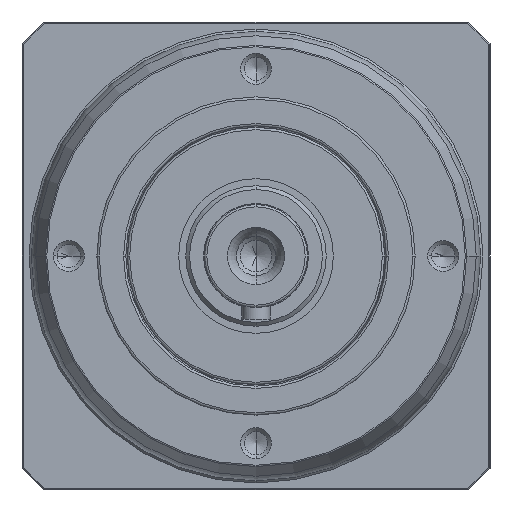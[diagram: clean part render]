
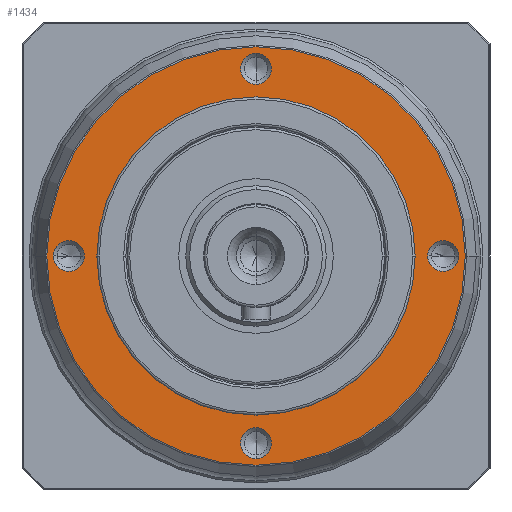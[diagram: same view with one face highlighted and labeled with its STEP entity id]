
A CAD part, left-side view. The second image highlights one B-rep face of the part: STEP entity #1434.
In plain terms, the highlighted planar face has unit normal (-1, 0, 0).
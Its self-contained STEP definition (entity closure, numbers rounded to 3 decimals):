
#252=CARTESIAN_POINT('',(6.,40.,0.));
#253=DIRECTION('',(1.,0.,0.));
#254=DIRECTION('',(0.,-1.,0.));
#255=AXIS2_PLACEMENT_3D('',#252,#253,#254);
#257=CARTESIAN_POINT('',(6.,40.,0.));
#258=DIRECTION('',(1.,0.,0.));
#259=DIRECTION('',(0.,1.,0.));
#260=AXIS2_PLACEMENT_3D('',#257,#258,#259);
#262=CARTESIAN_POINT('',(6.,0.,-40.));
#263=DIRECTION('',(1.,0.,0.));
#264=DIRECTION('',(0.,0.,-1.));
#265=AXIS2_PLACEMENT_3D('',#262,#263,#264);
#267=CARTESIAN_POINT('',(6.,0.,-40.));
#268=DIRECTION('',(1.,0.,0.));
#269=DIRECTION('',(0.,0.,1.));
#270=AXIS2_PLACEMENT_3D('',#267,#268,#269);
#272=CARTESIAN_POINT('',(6.,-40.,0.));
#273=DIRECTION('',(1.,0.,0.));
#274=DIRECTION('',(0.,-1.,0.));
#275=AXIS2_PLACEMENT_3D('',#272,#273,#274);
#277=CARTESIAN_POINT('',(6.,-40.,0.));
#278=DIRECTION('',(1.,0.,0.));
#279=DIRECTION('',(0.,1.,0.));
#280=AXIS2_PLACEMENT_3D('',#277,#278,#279);
#282=CARTESIAN_POINT('',(6.,0.,40.));
#283=DIRECTION('',(1.,0.,0.));
#284=DIRECTION('',(0.,0.,1.));
#285=AXIS2_PLACEMENT_3D('',#282,#283,#284);
#287=CARTESIAN_POINT('',(6.,0.,40.));
#288=DIRECTION('',(1.,0.,0.));
#289=DIRECTION('',(0.,0.,-1.));
#290=AXIS2_PLACEMENT_3D('',#287,#288,#289);
#292=CARTESIAN_POINT('',(6.,0.,0.));
#293=DIRECTION('',(1.,0.,0.));
#294=DIRECTION('',(0.,1.,0.));
#295=AXIS2_PLACEMENT_3D('',#292,#293,#294);
#297=CARTESIAN_POINT('',(6.,0.,0.));
#298=DIRECTION('',(1.,0.,0.));
#299=DIRECTION('',(0.,-1.,0.));
#300=AXIS2_PLACEMENT_3D('',#297,#298,#299);
#302=CARTESIAN_POINT('',(6.,0.,0.));
#303=DIRECTION('',(-1.,0.,0.));
#304=DIRECTION('',(0.,1.,0.));
#305=AXIS2_PLACEMENT_3D('',#302,#303,#304);
#307=CARTESIAN_POINT('',(6.,0.,0.));
#308=DIRECTION('',(-1.,0.,0.));
#309=DIRECTION('',(0.,-1.,0.));
#310=AXIS2_PLACEMENT_3D('',#307,#308,#309);
#899=CARTESIAN_POINT('',(6.,36.7,0.));
#900=CARTESIAN_POINT('',(6.,43.3,0.));
#901=VERTEX_POINT('',#899);
#902=VERTEX_POINT('',#900);
#903=CARTESIAN_POINT('',(6.,0.,-43.3));
#904=CARTESIAN_POINT('',(6.,0.,-36.7));
#905=VERTEX_POINT('',#903);
#906=VERTEX_POINT('',#904);
#907=CARTESIAN_POINT('',(6.,-43.3,0.));
#908=CARTESIAN_POINT('',(6.,-36.7,0.));
#909=VERTEX_POINT('',#907);
#910=VERTEX_POINT('',#908);
#911=CARTESIAN_POINT('',(6.,0.,43.3));
#912=CARTESIAN_POINT('',(6.,0.,36.7));
#913=VERTEX_POINT('',#911);
#914=VERTEX_POINT('',#912);
#943=CARTESIAN_POINT('',(6.,44.7,0.));
#944=CARTESIAN_POINT('',(6.,-44.7,0.));
#945=VERTEX_POINT('',#943);
#946=VERTEX_POINT('',#944);
#963=CARTESIAN_POINT('',(6.,34.,0.));
#964=CARTESIAN_POINT('',(6.,-34.,0.));
#965=VERTEX_POINT('',#963);
#966=VERTEX_POINT('',#964);
#1394=CARTESIAN_POINT('',(6.,0.,0.));
#1395=DIRECTION('',(-1.,0.,0.));
#1396=DIRECTION('',(0.,1.,0.));
#1397=AXIS2_PLACEMENT_3D('',#1394,#1395,#1396);
#1398=PLANE('',#1397);
#1400=ORIENTED_EDGE('',*,*,#1399,.T.);
#1402=ORIENTED_EDGE('',*,*,#1401,.T.);
#1403=EDGE_LOOP('',(#1400,#1402));
#1404=FACE_OUTER_BOUND('',#1403,.F.);
#1406=ORIENTED_EDGE('',*,*,#1405,.F.);
#1408=ORIENTED_EDGE('',*,*,#1407,.F.);
#1409=EDGE_LOOP('',(#1406,#1408));
#1410=FACE_BOUND('',#1409,.F.);
#1412=ORIENTED_EDGE('',*,*,#1411,.F.);
#1414=ORIENTED_EDGE('',*,*,#1413,.F.);
#1415=EDGE_LOOP('',(#1412,#1414));
#1416=FACE_BOUND('',#1415,.F.);
#1418=ORIENTED_EDGE('',*,*,#1417,.F.);
#1420=ORIENTED_EDGE('',*,*,#1419,.F.);
#1421=EDGE_LOOP('',(#1418,#1420));
#1422=FACE_BOUND('',#1421,.F.);
#1424=ORIENTED_EDGE('',*,*,#1423,.F.);
#1426=ORIENTED_EDGE('',*,*,#1425,.F.);
#1427=EDGE_LOOP('',(#1424,#1426));
#1428=FACE_BOUND('',#1427,.F.);
#1430=ORIENTED_EDGE('',*,*,#1429,.T.);
#1431=ORIENTED_EDGE('',*,*,#1384,.T.);
#1432=EDGE_LOOP('',(#1430,#1431));
#1433=FACE_BOUND('',#1432,.F.);
#1434=ADVANCED_FACE('',(#1404,#1410,#1416,#1422,#1428,#1433),#1398,.T.);
#256=CIRCLE('',#255,3.3);
#261=CIRCLE('',#260,3.3);
#266=CIRCLE('',#265,3.3);
#271=CIRCLE('',#270,3.3);
#276=CIRCLE('',#275,3.3);
#281=CIRCLE('',#280,3.3);
#286=CIRCLE('',#285,3.3);
#291=CIRCLE('',#290,3.3);
#296=CIRCLE('',#295,44.7);
#301=CIRCLE('',#300,44.7);
#306=CIRCLE('',#305,34.);
#311=CIRCLE('',#310,34.);
#1384=EDGE_CURVE('',#966,#965,#311,.T.);
#1399=EDGE_CURVE('',#945,#946,#296,.T.);
#1401=EDGE_CURVE('',#946,#945,#301,.T.);
#1405=EDGE_CURVE('',#901,#902,#256,.T.);
#1407=EDGE_CURVE('',#902,#901,#261,.T.);
#1411=EDGE_CURVE('',#905,#906,#266,.T.);
#1413=EDGE_CURVE('',#906,#905,#271,.T.);
#1417=EDGE_CURVE('',#909,#910,#276,.T.);
#1419=EDGE_CURVE('',#910,#909,#281,.T.);
#1423=EDGE_CURVE('',#913,#914,#286,.T.);
#1425=EDGE_CURVE('',#914,#913,#291,.T.);
#1429=EDGE_CURVE('',#965,#966,#306,.T.);
